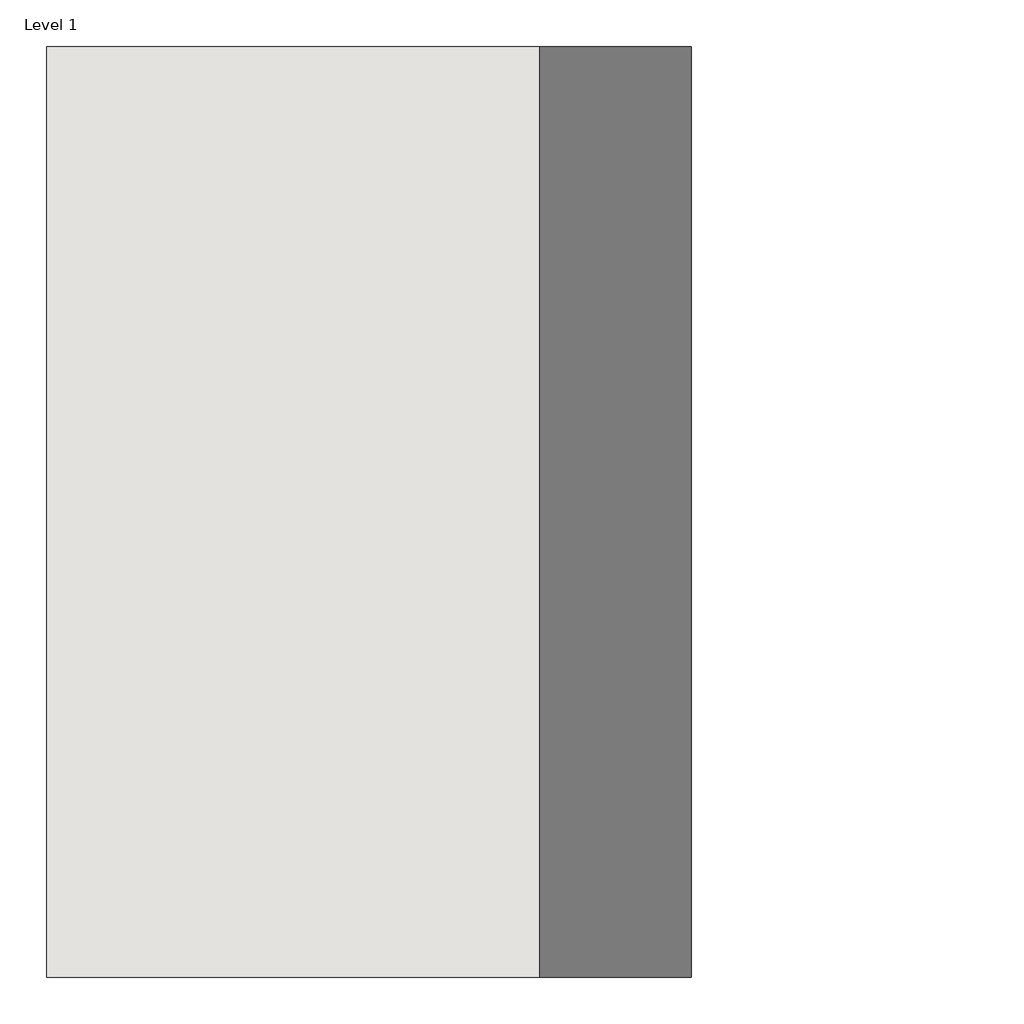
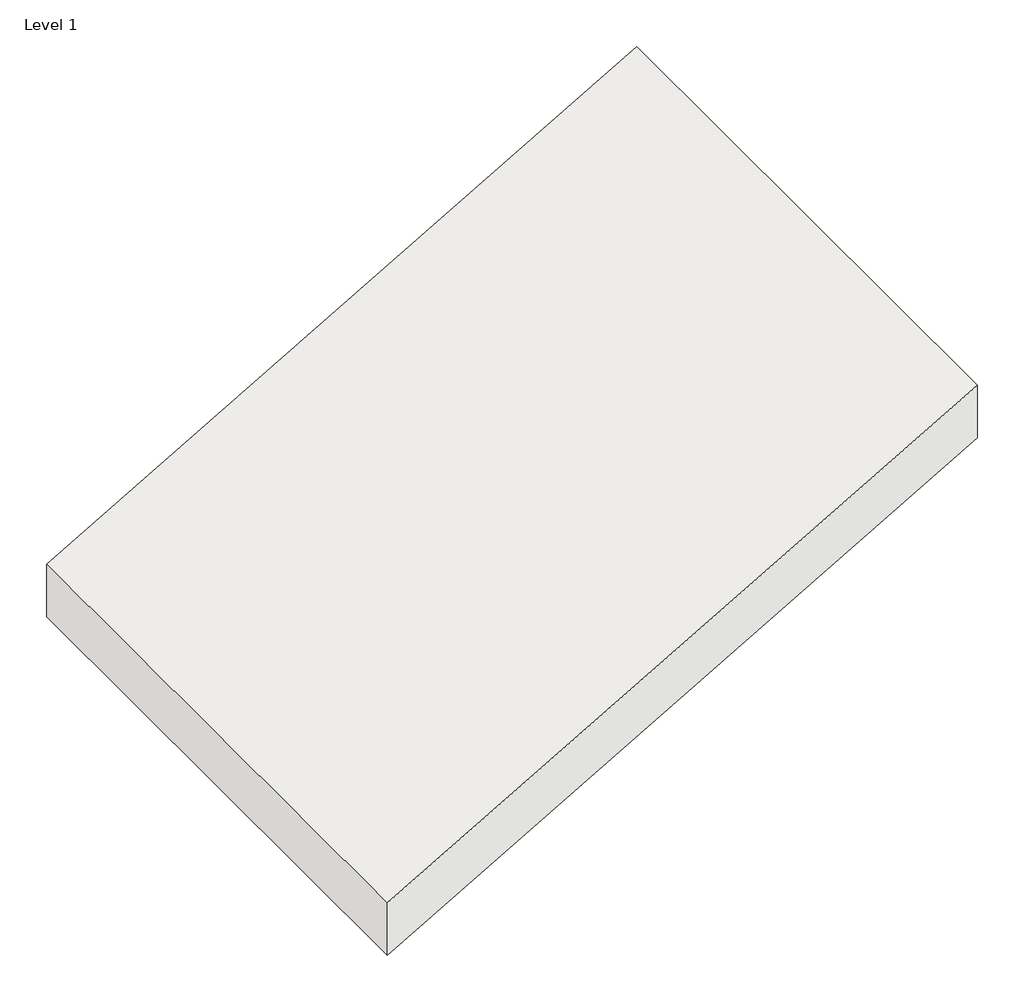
# One storey: 1 roof.
"""IFC4 building model written with IfcOpenShell, lengths in millimetres."""

from ifc_helpers import new_model, si_unit, frame, origin, place, context, project, spatial, polyline, outline, extrude, element, save

model = new_model("IFC4")

# Units and contexts
model_context = context("Model", 3, world=origin())
ifc_project = project(units=[si_unit("LENGTHUNIT", "METRE", prefix="MILLI")], contexts=[model_context])

# Site, building, storey
site = spatial("IfcSite", under=ifc_project)
building = spatial("IfcBuilding", under=site)
storey = spatial("IfcBuildingStorey", under=building, Name="Level 1", Elevation=0.0)

# Roof
placement = place(None, origin())
element("IfcRoof", 1, ObjectType="RIGIPS - 4.70.03 - REI 30 (45)", at=placement, inside=storey, context=model_context, shape_type="SweptSolid", body=[
    extrude(outline(polyline([(2014.9524395, 1500.0), (282.9016319, -1500.0), (0.0, -1500.0), (1732.0508076, 1500.0), (2014.9524395, 1500.0)])), frame((0.0, -1500.0, 0.0), z_axis=(0.0, 1.0, 0.0), x_axis=(0.0, 0.0, 1.0)), (0.0, 0.0, 1.0), 3000.0),
])

save(model, "model.ifc")
